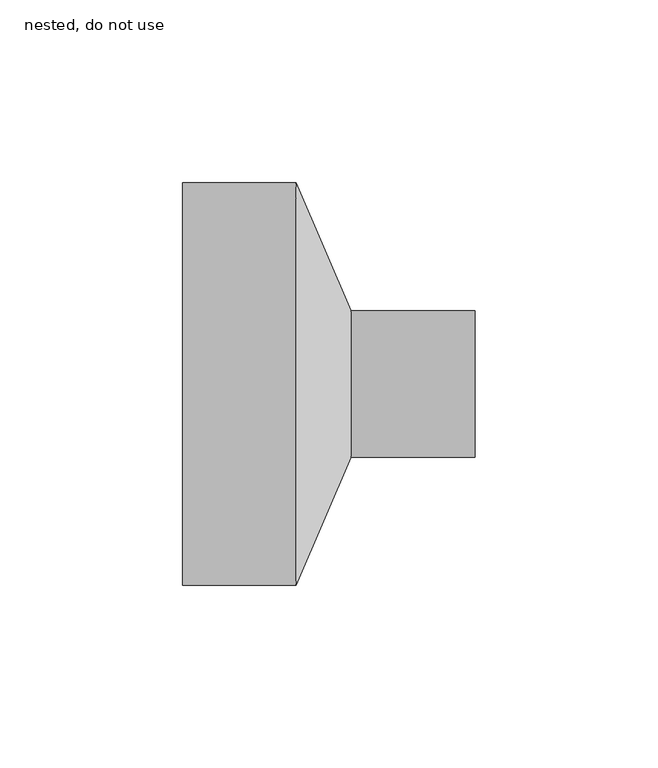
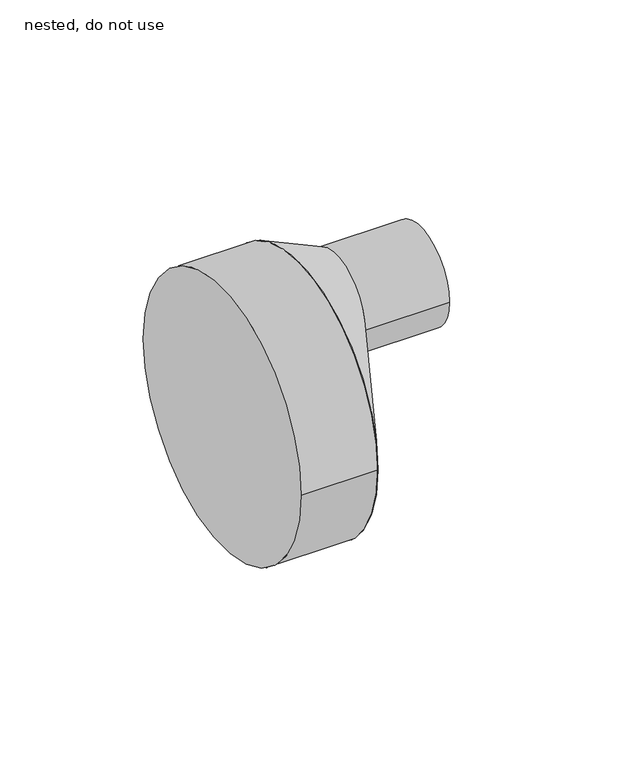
"""IFC4 building model written with IfcOpenShell, lengths in millimetres: pipe fitting geometry, NLRS_52_PIF_UN_HDPE reducer -SH_Akatherm : nested, do not use."""

from ifc_helpers import new_model, si_unit, point, frame, frame_2d, origin, origin_2d, place, context, project, spatial, circle_curve, trimmed, segment, composite_curve, outline, extrude, source, transform, mapped, element, save
from ifc_brep_helpers import plane_surface, spline_surface, advanced_brep


def nested_do_not_use_3065b1c8(model_context):
    return source(origin(), model_context, "Body", "SolidModel", [
        advanced_brep(
        [(6.0, -20.0, 33.0), (6.0, 20.0, 33.0), (-9.0, -55.0, 0.0), (-9.0, 55.0, 0.0)],
        [
            (0, 1, circle_curve(frame((6.0, 0.0, 33.0), z_axis=(1.0, 0.0, 0.0), x_axis=(0.0, 1.0, 0.0)), 20.0)),
            (1, 0, circle_curve(frame((6.0, 0.0, 33.0), z_axis=(1.0, 0.0, 0.0), x_axis=(0.0, 1.0, 0.0)), 20.0)),
            (2, 3, circle_curve(frame((-9.0, 0.0, 0.0), z_axis=(-1.0, 0.0, 0.0), x_axis=(0.0, 1.0, 0.0)), 55.0)),
            (3, 2, circle_curve(frame((-9.0, 0.0, 0.0), z_axis=(-1.0, 0.0, 0.0), x_axis=(0.0, 1.0, 0.0)), 55.0)),
            (3, 1),
            (0, 2),
        ],
        [
            plane_surface(frame((6.0, 0.0, 33.0), z_axis=(1.0, 0.0, 0.0), x_axis=(0.0, 0.0, -1.0))),
            plane_surface(frame((-9.0, 0.0, 0.0), z_axis=(-1.0, 0.0, 0.0), x_axis=(0.0, 0.0, -1.0))),
            spline_surface(2, 1, [[(-9.0, -55.0, 0.0), (6.0, -20.0, 33.0)], [(-9.0, -55.0, -55.0), (6.0, -20.0, 13.0)], [(-9.0, 0.0, -55.0), (6.0, 0.0, 13.0)], [(-9.0, 55.0, -55.0), (6.0, 20.0, 13.0)], [(-9.0, 55.0, 0.0), (6.0, 20.0, 33.0)]], [3, 2, 3], [2, 2], [0.0, 1.0, 2.0], [0.0, 1.0], weights=[[1.0, 1.0], [0.7071067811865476, 0.7071067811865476], [1.0, 1.0], [0.7071067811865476, 0.7071067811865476], [1.0, 1.0]]),
            spline_surface(2, 1, [[(-9.0, 55.0, 0.0), (6.0, 20.0, 33.0)], [(-9.0, 55.0, 55.0), (6.0, 20.0, 53.0)], [(-9.0, 0.0, 55.0), (6.0, 0.0, 53.0)], [(-9.0, -55.0, 55.0), (6.0, -20.0, 53.0)], [(-9.0, -55.0, 0.0), (6.0, -20.0, 33.0)]], [3, 2, 3], [2, 2], [0.0, 1.0, 2.0], [0.0, 1.0], weights=[[1.0, 1.0], [0.7071067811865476, 0.7071067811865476], [1.0, 1.0], [0.7071067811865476, 0.7071067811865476], [1.0, 1.0]]),
        ],
        [
            (0, [[1, 2]]),
            (1, [[3, 4]]),
            (2, [[-4, 5, -1, 6]]),
            (3, [[-3, -6, -2, -5]]),
        ],
    ),
        extrude(outline(composite_curve([segment(trimmed(circle_curve(frame_2d((0.0, 33.0)), 20.0), [point((-20.0, 33.0))], [point((20.0, 33.0))], False, "CARTESIAN"), True, "CONTINUOUS"), segment(trimmed(circle_curve(frame_2d((0.0, 33.0)), 20.0), [point((20.0, 33.0))], [point((-20.0, 33.0))], False, "CARTESIAN"), True, "CONTINUOUS")], self_intersect=False)), frame((6.0, 0.0, 0.0), z_axis=(1.0, 0.0, 0.0), x_axis=(0.0, 1.0, 0.0)), (0.0, 0.0, 1.0), 34.0),
        extrude(outline(composite_curve([segment(trimmed(circle_curve(origin_2d(), 55.0), [point((-55.0, 0.0))], [point((55.0, 0.0))], False, "CARTESIAN"), True, "CONTINUOUS"), segment(trimmed(circle_curve(origin_2d(), 55.0), [point((55.0, 0.0))], [point((-55.0, 0.0))], False, "CARTESIAN"), True, "CONTINUOUS")], self_intersect=False)), frame((-40.0, 0.0, 0.0), z_axis=(1.0, 0.0, 0.0), x_axis=(0.0, 1.0, 0.0)), (0.0, 0.0, 1.0), 31.0),
    ])


if __name__ == "__main__":
    model = new_model("IFC4")
    model_context = context("Model", 3, world=origin())
    ifc_project = project(units=[si_unit("LENGTHUNIT", "METRE", prefix="MILLI")], contexts=[model_context])
    site = spatial("IfcSite", under=ifc_project)
    building = spatial("IfcBuilding", under=site)
    placement = place(None, origin())
    nested_do_not_use_shape = nested_do_not_use_3065b1c8(model_context)
    element("IfcPipeFitting", 1, ObjectType="NLRS_52_PIF_UN_HDPE reducer -SH_Akatherm : nested, do not use", at=placement, inside=building, context=model_context, shape_type="MappedRepresentation", body=[
        mapped(nested_do_not_use_shape, transform((0.0, 0.0, 0.0), x_axis=(1.0, 0.0, 0.0), y_axis=(0.0, 1.0, 0.0), z_axis=(0.0, 0.0, 1.0))),
    ])
    save(model, "model.ifc")
